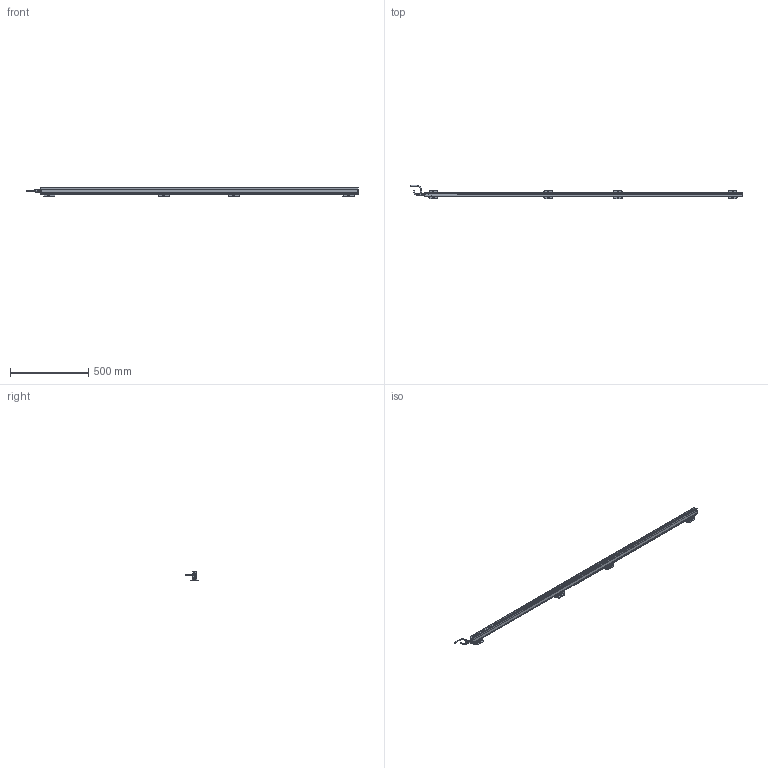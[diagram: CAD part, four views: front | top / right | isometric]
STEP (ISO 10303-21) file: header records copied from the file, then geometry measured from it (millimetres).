
FILE_DESCRIPTION(('Bauteilbeschreibung','HiCAD-Model','HiCAD-STEP-TRANSLATION','Bauteilbeschreibung'),'2;1');
FILE_NAME('PERFORMAXIQEASY_1950-2040_3D.STP','2014-03-05T11:50:29+00:00',('Konstrukteur'),('Konstrukteur Firma GmbH'),' HiCAD 2011, Step 1600.0 ','HiCAD 2011','confidential');
FILE_SCHEMA(('AUTOMOTIVE_DESIGN { 1 2 10303 214 0 1 1 1 }'));
Products named in the file (46): PERFORMAXIQEASY_1950_2040_3D; A_PERFORMAX IQ EASY 1950_2040; A_PERFORMAX IQ EASY SPEED; A_CAP DE; A_CAP CE_5; LED_2C_3MM; LED02C03MM; A519020315_CONNECTOR APPLIANCE; A_INSERT; A_CONTACTS; A_HOUSING; A_PROFILE; A_POTTING; PIN; PIN0; A532000100_BRACKET BARS_ MOUNT; A_SIDE PIECE; A0SIDE0PIECE; A_BRACKET SMALL; A_SLIDE PIECE; A5320001000BRACKET0BARS00MOUNT; A0SIDE0PIECE0; A0SIDE0PIECE1; A0BRACKET0SMALL; A0SLIDE0PIECE; A5320001000BRACKET0BARS00MOUNT0; A0SIDE0PIECE2; A0SIDE0PIECE3; A0BRACKET0SMALL0; A0SLIDE0PIECE0; A0SIDE0PIECE4; A0SIDE0PIECE5; A0BRACKET0SMALL1; A0SLIDE0PIECE1; A_CONNECTOR STRAIGHT; EXTRUDED SOLID_0; DRAAD GEBOGEN; REVOLVED SOLID_1; REVOLVED SOLID_3; A_CONNECTOR ANGLED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
Assembly tree (45 placements, depth 5):
  PERFORMAXIQEASY_1950_2040_3D
    A_PERFORMAX IQ EASY 1950_2040
      A_PERFORMAX IQ EASY SPEED
        A_CAP DE
        A_CAP CE_5
        LED_2C_3MM
        LED02C03MM
        A519020315_CONNECTOR APPLIANCE
          A_INSERT
          A_CONTACTS
          A_HOUSING
        A_PROFILE
        A_POTTING
        PIN
        PIN0
      A532000100_BRACKET BARS_ MOUNT
        A_SIDE PIECE
        A0SIDE0PIECE
        A_BRACKET SMALL
        A_SLIDE PIECE
      A5320001000BRACKET0BARS00MOUNT
        A0SIDE0PIECE0
        A0SIDE0PIECE1
        A0BRACKET0SMALL
        A0SLIDE0PIECE
      A5320001000BRACKET0BARS00MOUNT0
        A0SIDE0PIECE2
        A0SIDE0PIECE3
        A0BRACKET0SMALL0
        A0SLIDE0PIECE0
      A5320001000BRACKET0BARS00MOUNT0
        A0SIDE0PIECE4
        A0SIDE0PIECE5
        A0BRACKET0SMALL1
        A0SLIDE0PIECE1
      A_CONNECTOR STRAIGHT
        EXTRUDED SOLID_0
        DRAAD GEBOGEN
        REVOLVED SOLID_1
        REVOLVED SOLID_3
      A_CONNECTOR ANGLED
        REVOLVED0SOLID01
        EXTRUDED0SOLID00
        C_EDGE SWEEP_0
        REVOLVED SOLID_2
        REVOLVED0SOLID03
Bounding box: 2117.89 x 84.27 x 63.13 mm (x, y, z)
Volume: 2125249.4 mm3; surface area: 535191.8 mm2
Topology: 41 solids, 41 shells, 3447 faces, 8839 edges, 5258 vertices
Faces by surface type: cylinder 1457, plane 1315, sphere 222, torus 205, bspline 168, cone 80
Full cylindrical faces by diameter (mm): 0.8 x10, 1 x5, 2.387 x8, 3 x19, 3.1 x1, 4.2 x2, 5 x4, 5.5 x20, 8 x2, 8.2 x1, 8.4 x2, 8.945 x1, 9 x2, 10.2 x1, 10.5 x3, 11 x1, 12 x3, 12.8 x1, 13.8 x4, 14.5 x3
Entity records: 159221 total; most frequent: CARTESIAN_POINT 37152, DIRECTION 17145, ORIENTED_EDGE 16748, EDGE_CURVE 8374, COLOUR_RGB 7959, PRESENTATION_STYLE_ASSIGNMENT 7959, OVER_RIDING_STYLED_ITEM 7923, CURVE_STYLE 7918
